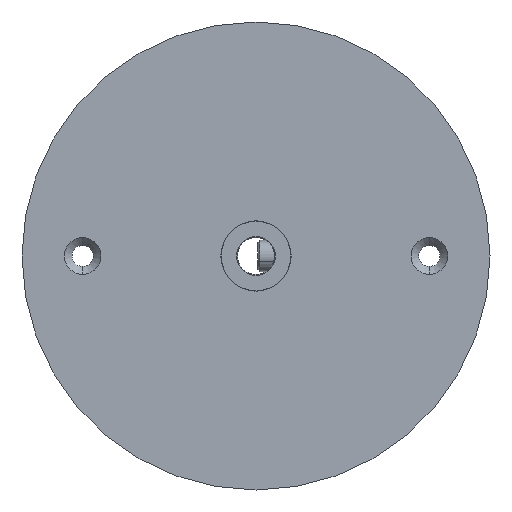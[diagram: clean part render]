
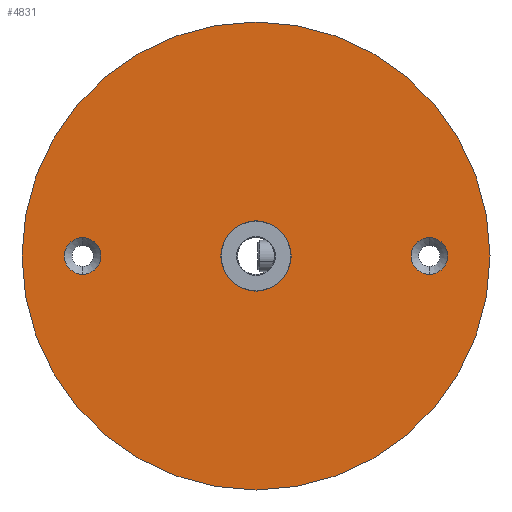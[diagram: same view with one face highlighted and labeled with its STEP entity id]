
A CAD part, front view. The second image highlights one B-rep face of the part: STEP entity #4831.
In plain terms, the highlighted planar face has unit normal (0, -1, 0).
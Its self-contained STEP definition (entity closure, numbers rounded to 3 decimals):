
#82 = ORIENTED_EDGE ( 'NONE', *, *, #7510, .F. ) ;
#195 = EDGE_CURVE ( 'NONE', #6941, #2609, #4260, .T. ) ;
#214 = FACE_OUTER_BOUND ( 'NONE', #2724, .T. ) ;
#417 = EDGE_CURVE ( 'NONE', #7094, #1873, #3405, .T. ) ;
#516 = AXIS2_PLACEMENT_3D ( 'NONE', #2056, #4525, #2704 ) ;
#522 = CARTESIAN_POINT ( 'NONE',  ( 0., -1., 0. ) ) ;
#561 = ORIENTED_EDGE ( 'NONE', *, *, #195, .F. ) ;
#597 = AXIS2_PLACEMENT_3D ( 'NONE', #5121, #7733, #2613 ) ;
#647 = CIRCLE ( 'NONE', #5173, 6.55 ) ;
#691 = CARTESIAN_POINT ( 'NONE',  ( 0., -1., 6.55 ) ) ;
#711 = DIRECTION ( 'NONE',  ( 0., 1., 0. ) ) ;
#747 = CARTESIAN_POINT ( 'NONE',  ( 0., -1., 0. ) ) ;
#765 = CIRCLE ( 'NONE', #2457, 6.55 ) ;
#980 = VERTEX_POINT ( 'NONE', #691 ) ;
#990 = DIRECTION ( 'NONE',  ( 0., 0., -1. ) ) ;
#1069 = AXIS2_PLACEMENT_3D ( 'NONE', #747, #711, #3183 ) ;
#1201 = AXIS2_PLACEMENT_3D ( 'NONE', #4556, #5168, #7664 ) ;
#1395 = DIRECTION ( 'NONE',  ( 0., 1., 0. ) ) ;
#1444 = FACE_BOUND ( 'NONE', #3416, .T. ) ;
#1526 = CARTESIAN_POINT ( 'NONE',  ( -44.45, -1., 0. ) ) ;
#1632 = DIRECTION ( 'NONE',  ( 0., 0., -1. ) ) ;
#1635 = EDGE_LOOP ( 'NONE', ( #7547, #2011 ) ) ;
#1701 = DIRECTION ( 'NONE',  ( 0., 1., 0. ) ) ;
#1750 = EDGE_CURVE ( 'NONE', #3408, #2483, #6620, .T. ) ;
#1873 = VERTEX_POINT ( 'NONE', #6733 ) ;
#1883 = CARTESIAN_POINT ( 'NONE',  ( 0., -1., -6.55 ) ) ;
#1987 = CARTESIAN_POINT ( 'NONE',  ( 0., -1., -60. ) ) ;
#2011 = ORIENTED_EDGE ( 'NONE', *, *, #5993, .T. ) ;
#2056 = CARTESIAN_POINT ( 'NONE',  ( -44.45, -1., 0. ) ) ;
#2115 = DIRECTION ( 'NONE',  ( 0., -1., 0. ) ) ;
#2123 = EDGE_CURVE ( 'NONE', #980, #3846, #647, .T. ) ;
#2457 = AXIS2_PLACEMENT_3D ( 'NONE', #522, #1701, #7353 ) ;
#2483 = VERTEX_POINT ( 'NONE', #6459 ) ;
#2530 = ORIENTED_EDGE ( 'NONE', *, *, #1750, .F. ) ;
#2609 = VERTEX_POINT ( 'NONE', #5387 ) ;
#2613 = DIRECTION ( 'NONE',  ( 0., 0., -1. ) ) ;
#2701 = PLANE ( 'NONE',  #1201 ) ;
#2704 = DIRECTION ( 'NONE',  ( 0., 0., -1. ) ) ;
#2724 = EDGE_LOOP ( 'NONE', ( #7450, #5055 ) ) ;
#2778 = DIRECTION ( 'NONE',  ( 0., 0., -1. ) ) ;
#3007 = CARTESIAN_POINT ( 'NONE',  ( 44.45, -1., -4.7 ) ) ;
#3183 = DIRECTION ( 'NONE',  ( 0., 0., -1. ) ) ;
#3307 = FACE_BOUND ( 'NONE', #1635, .T. ) ;
#3405 = CIRCLE ( 'NONE', #1069, 60. ) ;
#3408 = VERTEX_POINT ( 'NONE', #5500 ) ;
#3416 = EDGE_LOOP ( 'NONE', ( #82, #2530 ) ) ;
#3846 = VERTEX_POINT ( 'NONE', #1883 ) ;
#3852 = CARTESIAN_POINT ( 'NONE',  ( 44.45, -1., 0. ) ) ;
#3992 = CARTESIAN_POINT ( 'NONE',  ( 0., -1., 0. ) ) ;
#4085 = DIRECTION ( 'NONE',  ( 0., -1., 0. ) ) ;
#4260 = CIRCLE ( 'NONE', #6347, 4.7 ) ;
#4507 = CIRCLE ( 'NONE', #7643, 4.7 ) ;
#4525 = DIRECTION ( 'NONE',  ( 0., -1., 0. ) ) ;
#4556 = CARTESIAN_POINT ( 'NONE',  ( 0., -1., 0. ) ) ;
#4671 = CARTESIAN_POINT ( 'NONE',  ( 44.45, -1., 0. ) ) ;
#4831 = ADVANCED_FACE ( 'NONE', ( #7057, #1444, #3307, #214 ), #2701, .T. ) ;
#5055 = ORIENTED_EDGE ( 'NONE', *, *, #417, .F. ) ;
#5095 = CIRCLE ( 'NONE', #7320, 4.7 ) ;
#5121 = CARTESIAN_POINT ( 'NONE',  ( 0., -1., 0. ) ) ;
#5168 = DIRECTION ( 'NONE',  ( 0., -1., 0. ) ) ;
#5173 = AXIS2_PLACEMENT_3D ( 'NONE', #3992, #1395, #2778 ) ;
#5195 = EDGE_LOOP ( 'NONE', ( #561, #5919 ) ) ;
#5387 = CARTESIAN_POINT ( 'NONE',  ( 44.45, -1., 4.7 ) ) ;
#5391 = CIRCLE ( 'NONE', #597, 60. ) ;
#5459 = EDGE_CURVE ( 'NONE', #2609, #6941, #4507, .T. ) ;
#5500 = CARTESIAN_POINT ( 'NONE',  ( -44.45, -1., 4.7 ) ) ;
#5704 = DIRECTION ( 'NONE',  ( 0., -1., 0. ) ) ;
#5919 = ORIENTED_EDGE ( 'NONE', *, *, #5459, .F. ) ;
#5993 = EDGE_CURVE ( 'NONE', #3846, #980, #765, .T. ) ;
#6347 = AXIS2_PLACEMENT_3D ( 'NONE', #3852, #5704, #6984 ) ;
#6459 = CARTESIAN_POINT ( 'NONE',  ( -44.45, -1., -4.7 ) ) ;
#6619 = EDGE_CURVE ( 'NONE', #1873, #7094, #5391, .T. ) ;
#6620 = CIRCLE ( 'NONE', #516, 4.7 ) ;
#6733 = CARTESIAN_POINT ( 'NONE',  ( 0., -1., 60. ) ) ;
#6941 = VERTEX_POINT ( 'NONE', #3007 ) ;
#6984 = DIRECTION ( 'NONE',  ( 0., 0., -1. ) ) ;
#7057 = FACE_BOUND ( 'NONE', #5195, .T. ) ;
#7094 = VERTEX_POINT ( 'NONE', #1987 ) ;
#7320 = AXIS2_PLACEMENT_3D ( 'NONE', #1526, #4085, #990 ) ;
#7353 = DIRECTION ( 'NONE',  ( 0., 0., -1. ) ) ;
#7450 = ORIENTED_EDGE ( 'NONE', *, *, #6619, .F. ) ;
#7510 = EDGE_CURVE ( 'NONE', #2483, #3408, #5095, .T. ) ;
#7547 = ORIENTED_EDGE ( 'NONE', *, *, #2123, .T. ) ;
#7643 = AXIS2_PLACEMENT_3D ( 'NONE', #4671, #2115, #1632 ) ;
#7664 = DIRECTION ( 'NONE',  ( 0., 0., -1. ) ) ;
#7733 = DIRECTION ( 'NONE',  ( 0., 1., 0. ) ) ;
